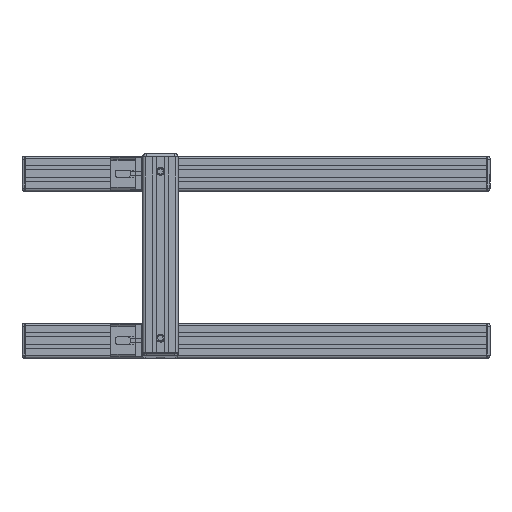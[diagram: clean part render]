
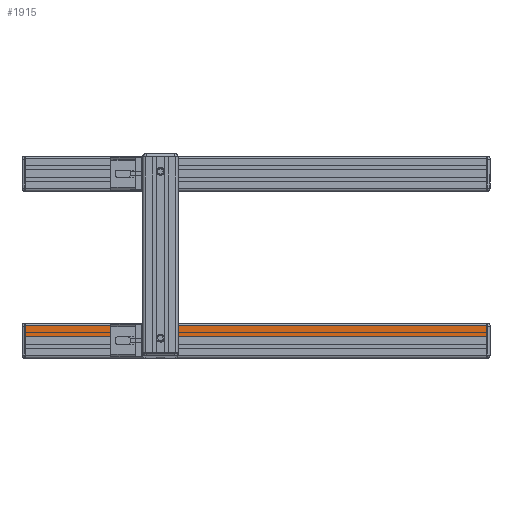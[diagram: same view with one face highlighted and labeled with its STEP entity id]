
A CAD part, top view. The second image highlights one B-rep face of the part: STEP entity #1915.
In plain terms, the highlighted planar face has unit normal (0, 0, 1).
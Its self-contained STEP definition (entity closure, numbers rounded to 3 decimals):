
#1915=ADVANCED_FACE('',(#3117),#3118,.T.);
#3117=FACE_OUTER_BOUND('',#4683,.T.);
#3118=PLANE('',#4684);
#4683=EDGE_LOOP('',(#6708,#6709,#6710,#6711));
#4684=AXIS2_PLACEMENT_3D('',#6712,#6713,#6714);
#6708=ORIENTED_EDGE('',*,*,#10451,.T.);
#6709=ORIENTED_EDGE('',*,*,#10454,.T.);
#6710=ORIENTED_EDGE('',*,*,#10455,.F.);
#6711=ORIENTED_EDGE('',*,*,#10456,.T.);
#6712=CARTESIAN_POINT('',(-50000.0,-94.75,52.0));
#6713=DIRECTION('',(0.0,0.,1.0));
#6714=DIRECTION('',(0.0,-1.0,0.));
#10451=EDGE_CURVE('',#12333,#12331,#12334,.T.);
#10454=EDGE_CURVE('',#12331,#12337,#12338,.T.);
#10455=EDGE_CURVE('',#12339,#12337,#12340,.T.);
#10456=EDGE_CURVE('',#12339,#12333,#12341,.T.);
#12331=VERTEX_POINT('',#15139);
#12333=VERTEX_POINT('',#15142);
#12334=LINE('',#15143,#15144);
#12337=VERTEX_POINT('',#15148);
#12338=LINE('',#15149,#15150);
#12339=VERTEX_POINT('',#15151);
#12340=LINE('',#15152,#15153);
#12341=LINE('',#15154,#15155);
#15139=CARTESIAN_POINT('',(296.0,-102.0,52.0));
#15142=CARTESIAN_POINT('',(-296.,-102.0,52.0));
#15143=CARTESIAN_POINT('',(-50000.0,-102.0,52.0));
#15144=VECTOR('',#19065,1.0);
#15148=CARTESIAN_POINT('',(296.0,-87.5,52.0));
#15149=CARTESIAN_POINT('',(296.0,-94.75,52.0));
#15150=VECTOR('',#19067,1.0);
#15151=CARTESIAN_POINT('',(-296.,-87.5,52.0));
#15152=CARTESIAN_POINT('',(-50000.0,-87.5,52.0));
#15153=VECTOR('',#19068,1.0);
#15154=CARTESIAN_POINT('',(-296.,-94.75,52.0));
#15155=VECTOR('',#19069,1.0);
#19065=DIRECTION('',(1.0,0.0,0.0));
#19067=DIRECTION('',(0.,1.0,0.));
#19068=DIRECTION('',(1.0,0.0,0.0));
#19069=DIRECTION('',(0.,-1.0,0.));
